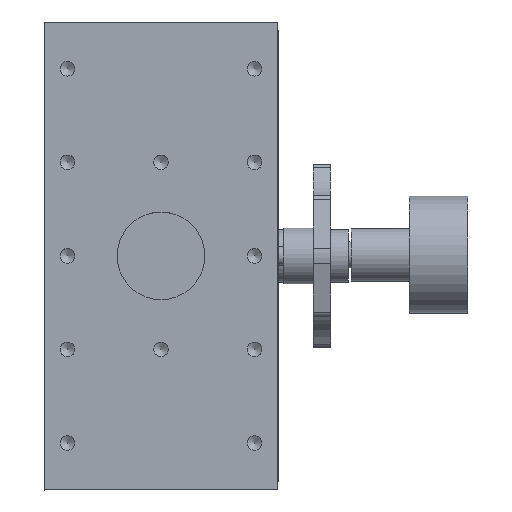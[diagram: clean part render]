
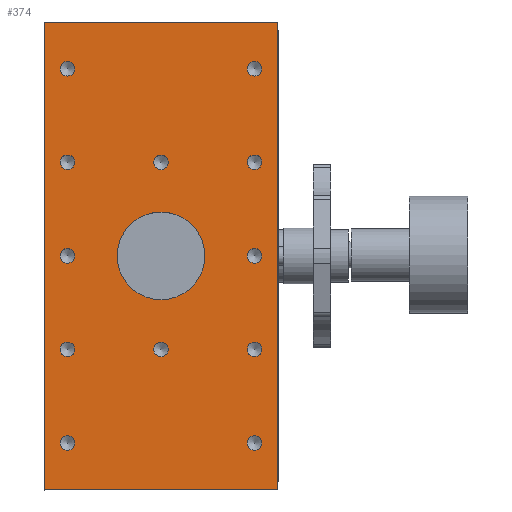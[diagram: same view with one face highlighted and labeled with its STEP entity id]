
A CAD part, top view. The second image highlights one B-rep face of the part: STEP entity #374.
In plain terms, the highlighted planar face has unit normal (0, 0, 1).
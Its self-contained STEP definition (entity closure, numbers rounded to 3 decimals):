
#374 = ADVANCED_FACE( '', ( #823, #824, #825, #826, #827, #828, #829, #830, #831, #832, #833, #834, #835, #836 ), #837, .T. );
#823 = FACE_OUTER_BOUND( '', #1342, .T. );
#824 = FACE_BOUND( '', #1343, .T. );
#825 = FACE_BOUND( '', #1344, .T. );
#826 = FACE_BOUND( '', #1345, .T. );
#827 = FACE_BOUND( '', #1346, .T. );
#828 = FACE_BOUND( '', #1347, .T. );
#829 = FACE_BOUND( '', #1348, .T. );
#830 = FACE_BOUND( '', #1349, .T. );
#831 = FACE_BOUND( '', #1350, .T. );
#832 = FACE_BOUND( '', #1351, .T. );
#833 = FACE_BOUND( '', #1352, .T. );
#834 = FACE_BOUND( '', #1353, .T. );
#835 = FACE_BOUND( '', #1354, .T. );
#836 = FACE_BOUND( '', #1355, .T. );
#837 = PLANE( '', #1356 );
#1342 = EDGE_LOOP( '', ( #2304, #2305, #2306, #2307 ) );
#1343 = EDGE_LOOP( '', ( #2308 ) );
#1344 = EDGE_LOOP( '', ( #2309 ) );
#1345 = EDGE_LOOP( '', ( #2310 ) );
#1346 = EDGE_LOOP( '', ( #2311 ) );
#1347 = EDGE_LOOP( '', ( #2312 ) );
#1348 = EDGE_LOOP( '', ( #2313 ) );
#1349 = EDGE_LOOP( '', ( #2314 ) );
#1350 = EDGE_LOOP( '', ( #2315 ) );
#1351 = EDGE_LOOP( '', ( #2316 ) );
#1352 = EDGE_LOOP( '', ( #2317 ) );
#1353 = EDGE_LOOP( '', ( #2318 ) );
#1354 = EDGE_LOOP( '', ( #2319 ) );
#1355 = EDGE_LOOP( '', ( #2320 ) );
#1356 = AXIS2_PLACEMENT_3D( '', #2321, #2322, #2323 );
#2304 = ORIENTED_EDGE( '', *, *, #2964, .T. );
#2305 = ORIENTED_EDGE( '', *, *, #2982, .T. );
#2306 = ORIENTED_EDGE( '', *, *, #3064, .F. );
#2307 = ORIENTED_EDGE( '', *, *, #2737, .T. );
#2308 = ORIENTED_EDGE( '', *, *, #3066, .T. );
#2309 = ORIENTED_EDGE( '', *, *, #3008, .T. );
#2310 = ORIENTED_EDGE( '', *, *, #2997, .T. );
#2311 = ORIENTED_EDGE( '', *, *, #3030, .T. );
#2312 = ORIENTED_EDGE( '', *, *, #2862, .T. );
#2313 = ORIENTED_EDGE( '', *, *, #3067, .T. );
#2314 = ORIENTED_EDGE( '', *, *, #2807, .T. );
#2315 = ORIENTED_EDGE( '', *, *, #2947, .T. );
#2316 = ORIENTED_EDGE( '', *, *, #2999, .T. );
#2317 = ORIENTED_EDGE( '', *, *, #3006, .T. );
#2318 = ORIENTED_EDGE( '', *, *, #3068, .T. );
#2319 = ORIENTED_EDGE( '', *, *, #2820, .T. );
#2320 = ORIENTED_EDGE( '', *, *, #2793, .T. );
#2321 = CARTESIAN_POINT( '', ( 0.001, 0., 28.998 ) );
#2322 = DIRECTION( '', ( 0., 0., 1. ) );
#2323 = DIRECTION( '', ( 0., 1., 0. ) );
#2737 = EDGE_CURVE( '', #3200, #3221, #3223, .T. );
#2793 = EDGE_CURVE( '', #3315, #3315, #3316, .T. );
#2807 = EDGE_CURVE( '', #3338, #3338, #3339, .T. );
#2820 = EDGE_CURVE( '', #3357, #3357, #3358, .T. );
#2862 = EDGE_CURVE( '', #3422, #3422, #3423, .T. );
#2947 = EDGE_CURVE( '', #3557, #3557, #3558, .T. );
#2964 = EDGE_CURVE( '', #3221, #3580, #3582, .T. );
#2982 = EDGE_CURVE( '', #3580, #3604, #3606, .T. );
#2997 = EDGE_CURVE( '', #3622, #3622, #3623, .T. );
#2999 = EDGE_CURVE( '', #3625, #3625, #3626, .T. );
#3006 = EDGE_CURVE( '', #3633, #3633, #3634, .T. );
#3008 = EDGE_CURVE( '', #3636, #3636, #3637, .T. );
#3030 = EDGE_CURVE( '', #3666, #3666, #3667, .T. );
#3064 = EDGE_CURVE( '', #3200, #3604, #3714, .T. );
#3066 = EDGE_CURVE( '', #3716, #3716, #3717, .T. );
#3067 = EDGE_CURVE( '', #3718, #3718, #3719, .T. );
#3068 = EDGE_CURVE( '', #3720, #3720, #3721, .T. );
#3200 = VERTEX_POINT( '', #3876 );
#3221 = VERTEX_POINT( '', #3907 );
#3223 = LINE( '', #3910, #3911 );
#3315 = VERTEX_POINT( '', #4024 );
#3316 = CIRCLE( '', #4025, 1.25 );
#3338 = VERTEX_POINT( '', #4055 );
#3339 = CIRCLE( '', #4056, 1.25 );
#3357 = VERTEX_POINT( '', #4077 );
#3358 = CIRCLE( '', #4078, 1.25 );
#3422 = VERTEX_POINT( '', #4160 );
#3423 = CIRCLE( '', #4161, 1.25 );
#3557 = VERTEX_POINT( '', #4350 );
#3558 = CIRCLE( '', #4351, 1.25 );
#3580 = VERTEX_POINT( '', #4379 );
#3582 = LINE( '', #4382, #4383 );
#3604 = VERTEX_POINT( '', #4416 );
#3606 = LINE( '', #4419, #4420 );
#3622 = VERTEX_POINT( '', #4439 );
#3623 = CIRCLE( '', #4440, 1.25 );
#3625 = VERTEX_POINT( '', #4442 );
#3626 = CIRCLE( '', #4443, 1.25 );
#3633 = VERTEX_POINT( '', #4453 );
#3634 = CIRCLE( '', #4454, 1.25 );
#3636 = VERTEX_POINT( '', #4456 );
#3637 = CIRCLE( '', #4457, 1.25 );
#3666 = VERTEX_POINT( '', #4496 );
#3667 = CIRCLE( '', #4497, 1.25 );
#3714 = LINE( '', #4556, #4557 );
#3716 = VERTEX_POINT( '', #4559 );
#3717 = CIRCLE( '', #4560, 7.5 );
#3718 = VERTEX_POINT( '', #4561 );
#3719 = CIRCLE( '', #4562, 1.25 );
#3720 = VERTEX_POINT( '', #4563 );
#3721 = CIRCLE( '', #4564, 1.25 );
#3876 = CARTESIAN_POINT( '', ( -19.999, -40., 28.998 ) );
#3907 = CARTESIAN_POINT( '', ( 20.001, -40., 28.998 ) );
#3910 = CARTESIAN_POINT( '', ( 0.001, -40., 28.998 ) );
#3911 = VECTOR( '', #4713, 1000. );
#4024 = CARTESIAN_POINT( '', ( -1.249, 16., 28.998 ) );
#4025 = AXIS2_PLACEMENT_3D( '', #4798, #4799, #4800 );
#4055 = CARTESIAN_POINT( '', ( 14.751, 32., 28.998 ) );
#4056 = AXIS2_PLACEMENT_3D( '', #4812, #4813, #4814 );
#4077 = CARTESIAN_POINT( '', ( -1.249, -16., 28.998 ) );
#4078 = AXIS2_PLACEMENT_3D( '', #4830, #4831, #4832 );
#4160 = CARTESIAN_POINT( '', ( 14.751, 0., 28.998 ) );
#4161 = AXIS2_PLACEMENT_3D( '', #4884, #4885, #4886 );
#4350 = CARTESIAN_POINT( '', ( -17.249, 32., 28.998 ) );
#4351 = AXIS2_PLACEMENT_3D( '', #4978, #4979, #4980 );
#4379 = CARTESIAN_POINT( '', ( 20.001, 40., 28.998 ) );
#4382 = CARTESIAN_POINT( '', ( 20.001, 0., 28.998 ) );
#4383 = VECTOR( '', #5000, 1000. );
#4416 = CARTESIAN_POINT( '', ( -19.999, 40., 28.998 ) );
#4419 = CARTESIAN_POINT( '', ( 0.001, 40., 28.998 ) );
#4420 = VECTOR( '', #5016, 1000. );
#4439 = CARTESIAN_POINT( '', ( 14.751, -32., 28.998 ) );
#4440 = AXIS2_PLACEMENT_3D( '', #5026, #5027, #5028 );
#4442 = CARTESIAN_POINT( '', ( -17.249, 16., 28.998 ) );
#4443 = AXIS2_PLACEMENT_3D( '', #5029, #5030, #5031 );
#4453 = CARTESIAN_POINT( '', ( -17.249, 0., 28.998 ) );
#4454 = AXIS2_PLACEMENT_3D( '', #5035, #5036, #5037 );
#4456 = CARTESIAN_POINT( '', ( -17.249, -32., 28.998 ) );
#4457 = AXIS2_PLACEMENT_3D( '', #5038, #5039, #5040 );
#4496 = CARTESIAN_POINT( '', ( 14.751, -16., 28.998 ) );
#4497 = AXIS2_PLACEMENT_3D( '', #5063, #5064, #5065 );
#4556 = CARTESIAN_POINT( '', ( -19.999, 0., 28.998 ) );
#4557 = VECTOR( '', #5105, 1000. );
#4559 = CARTESIAN_POINT( '', ( -7.499, 0., 28.998 ) );
#4560 = AXIS2_PLACEMENT_3D( '', #5106, #5107, #5108 );
#4561 = CARTESIAN_POINT( '', ( 14.751, 16., 28.998 ) );
#4562 = AXIS2_PLACEMENT_3D( '', #5109, #5110, #5111 );
#4563 = CARTESIAN_POINT( '', ( -17.249, -16., 28.998 ) );
#4564 = AXIS2_PLACEMENT_3D( '', #5112, #5113, #5114 );
#4713 = DIRECTION( '', ( 1., 0., 0. ) );
#4798 = CARTESIAN_POINT( '', ( 0.001, 16., 28.998 ) );
#4799 = DIRECTION( '', ( 0., 0., -1. ) );
#4800 = DIRECTION( '', ( -1., 0., 0. ) );
#4812 = CARTESIAN_POINT( '', ( 16.001, 32., 28.998 ) );
#4813 = DIRECTION( '', ( 0., 0., -1. ) );
#4814 = DIRECTION( '', ( -1., 0., 0. ) );
#4830 = CARTESIAN_POINT( '', ( 0.001, -16., 28.998 ) );
#4831 = DIRECTION( '', ( 0., 0., -1. ) );
#4832 = DIRECTION( '', ( -1., 0., 0. ) );
#4884 = CARTESIAN_POINT( '', ( 16.001, 0., 28.998 ) );
#4885 = DIRECTION( '', ( 0., 0., -1. ) );
#4886 = DIRECTION( '', ( -1., 0., 0. ) );
#4978 = CARTESIAN_POINT( '', ( -15.999, 32., 28.998 ) );
#4979 = DIRECTION( '', ( 0., 0., -1. ) );
#4980 = DIRECTION( '', ( -1., 0., 0. ) );
#5000 = DIRECTION( '', ( 0., 1., 0. ) );
#5016 = DIRECTION( '', ( -1., 0., 0. ) );
#5026 = CARTESIAN_POINT( '', ( 16.001, -32., 28.998 ) );
#5027 = DIRECTION( '', ( 0., 0., -1. ) );
#5028 = DIRECTION( '', ( -1., 0., 0. ) );
#5029 = CARTESIAN_POINT( '', ( -15.999, 16., 28.998 ) );
#5030 = DIRECTION( '', ( 0., 0., -1. ) );
#5031 = DIRECTION( '', ( -1., 0., 0. ) );
#5035 = CARTESIAN_POINT( '', ( -15.999, 0., 28.998 ) );
#5036 = DIRECTION( '', ( 0., 0., -1. ) );
#5037 = DIRECTION( '', ( -1., 0., 0. ) );
#5038 = CARTESIAN_POINT( '', ( -15.999, -32., 28.998 ) );
#5039 = DIRECTION( '', ( 0., 0., -1. ) );
#5040 = DIRECTION( '', ( -1., 0., 0. ) );
#5063 = CARTESIAN_POINT( '', ( 16.001, -16., 28.998 ) );
#5064 = DIRECTION( '', ( 0., 0., -1. ) );
#5065 = DIRECTION( '', ( -1., 0., 0. ) );
#5105 = DIRECTION( '', ( 0., 1., 0. ) );
#5106 = CARTESIAN_POINT( '', ( 0.001, 0., 28.998 ) );
#5107 = DIRECTION( '', ( 0., 0., -1. ) );
#5108 = DIRECTION( '', ( -1., 0., 0. ) );
#5109 = CARTESIAN_POINT( '', ( 16.001, 16., 28.998 ) );
#5110 = DIRECTION( '', ( 0., 0., -1. ) );
#5111 = DIRECTION( '', ( -1., 0., 0. ) );
#5112 = CARTESIAN_POINT( '', ( -15.999, -16., 28.998 ) );
#5113 = DIRECTION( '', ( 0., 0., -1. ) );
#5114 = DIRECTION( '', ( -1., 0., 0. ) );
